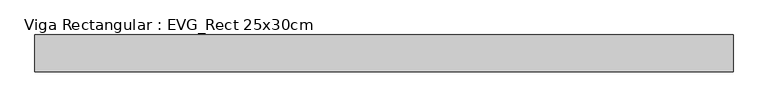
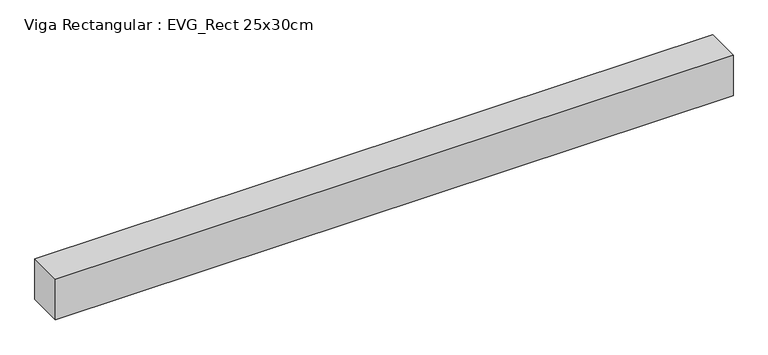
"""IFC4 building model written with IfcOpenShell, lengths in millimetres: beam geometry, Viga Rectangular : EVG_Rect 25x30cm."""

import ifcopenshell
import ifcopenshell.guid

model = None  # the IFC model being written
_history = None  # IfcOwnerHistory: only IFC2X3 demands one
_inside = {}  # id of a spatial element -> (the spatial element, [elements in it])
_under = {}  # id of a project, library or spatial element -> (it, [spatial elements below it])
_declared = {}  # id of a project -> (the project, [libraries it declares])
_typed = {}  # id of a type object -> (the type object, [elements of that type])
_made_of = {}  # id of a material, layer set ... -> (it, [elements and type objects made of it])


def new_model(schema):
    """Start an empty IFC model of exactly this schema.

    Asked for "IFC4X3", IfcOpenShell would pick the latest addendum, in which some entities
    have other attributes; the version numbers below select the first issue.
    IFC2X3 requires an IfcOwnerHistory on every rooted entity: one is made here for all.
    """
    global model, _history
    if schema == "IFC4X3":
        model = ifcopenshell.file(schema_version=(4, 3, 0, 0))
    else:
        model = ifcopenshell.file(schema=schema)
    _inside.clear()
    _under.clear()
    _declared.clear()
    _typed.clear()
    _made_of.clear()
    _history = None
    if model.schema == "IFC2X3":
        org = make("IfcOrganization", Name="unknown")
        user = make(
            "IfcPersonAndOrganization",
            ThePerson=make("IfcPerson", FamilyName="unknown"),
            TheOrganization=org,
        )
        app = make(
            "IfcApplication",
            ApplicationDeveloper=org,
            Version="unknown",
            ApplicationFullName="unknown",
            ApplicationIdentifier="unknown",
        )
        _history = make(
            "IfcOwnerHistory",
            OwningUser=user,
            OwningApplication=app,
            ChangeAction="ADDED",
            CreationDate=0,
        )
    return model


def make(cls, **values):
    """One entity of the class cls with the attributes given. An attribute that is None is left unset."""
    return model.create_entity(
        cls, **{name: value for name, value in values.items() if value is not None}
    )


def rooted(cls, **values):
    """An entity with a GlobalId (a new one), such as an element, a storey or a relation."""
    return make(cls, GlobalId=ifcopenshell.guid.new(), OwnerHistory=_history, **values)


def si_unit(unit_type, name, prefix=None):
    """IfcSIUnit, for example si_unit("LENGTHUNIT", "METRE", prefix="MILLI")."""
    return make("IfcSIUnit", UnitType=unit_type, Prefix=prefix, Name=name)


def assignment(units):
    """IfcUnitAssignment: the units of a project."""
    return None if units is None else make("IfcUnitAssignment", Units=units)


def point(xyz):
    """IfcCartesianPoint."""
    return None if xyz is None else make("IfcCartesianPoint", Coordinates=xyz)


def direction(xyz):
    """IfcDirection."""
    return None if xyz is None else make("IfcDirection", DirectionRatios=xyz)


def frame(location, z_axis=None, x_axis=None):
    """IfcAxis2Placement3D, a coordinate frame: its origin and axes. An axis left out is left unset."""
    return make(
        "IfcAxis2Placement3D",
        Location=point(location),
        Axis=direction(z_axis),
        RefDirection=direction(x_axis),
    )


def origin():
    """The frame at (0, 0, 0) with its axes left unset."""
    return frame((0.0, 0.0, 0.0))


def place(relative_to, where):
    """IfcLocalPlacement: puts the frame where relative to a parent placement (None: the world)."""
    return make(
        "IfcLocalPlacement", PlacementRelTo=relative_to, RelativePlacement=where
    )


def context(
    kind, dimensions, precision=None, world=None, true_north=None, identifier=None
):
    """IfcGeometricRepresentationContext, for example the 3D "Model" context."""
    return make(
        "IfcGeometricRepresentationContext",
        ContextIdentifier=identifier,
        ContextType=kind,
        CoordinateSpaceDimension=dimensions,
        Precision=precision,
        WorldCoordinateSystem=world,
        TrueNorth=true_north,
    )


def project(units=None, contexts=None):
    """IfcProject with its units and contexts."""
    return rooted(
        "IfcProject",
        Name="project",
        RepresentationContexts=contexts,
        UnitsInContext=assignment(units),
    )


def spatial(cls, under=None, at=None, **own):
    """A site, building, storey or space (cls), placed at a placement, below another one or the project."""
    s = rooted(cls, ObjectPlacement=at, **own)
    if under is not None:
        _under.setdefault(under.id(), (under, []))[1].append(s)
    return s


def polyline(points):
    """IfcPolyline through the points."""
    return make("IfcPolyline", Points=[point(p) for p in points])


def outline(outer, holes=None, kind="AREA"):
    """IfcArbitraryClosedProfileDef: a profile drawn as a closed curve; with holes, ...WithVoids."""
    if holes is None:
        return make("IfcArbitraryClosedProfileDef", ProfileType=kind, OuterCurve=outer)
    return make(
        "IfcArbitraryProfileDefWithVoids",
        ProfileType=kind,
        OuterCurve=outer,
        InnerCurves=holes,
    )


def extrude(swept, where, along, depth):
    """IfcExtrudedAreaSolid: the profile swept, set in the frame where, extruded along a direction by depth."""
    return make(
        "IfcExtrudedAreaSolid",
        SweptArea=swept,
        Position=where,
        ExtrudedDirection=direction(along),
        Depth=depth,
    )


def shape(context_of_items, identifier, shape_type, items):
    """IfcShapeRepresentation: the items that make up one representation, for example the "Body"."""
    return make(
        "IfcShapeRepresentation",
        ContextOfItems=context_of_items,
        RepresentationIdentifier=identifier,
        RepresentationType=shape_type,
        Items=items,
    )


def source(mapping_origin, context_of_items, identifier, shape_type, items):
    """IfcRepresentationMap: a shape defined once, which mapped items show again and again."""
    return make(
        "IfcRepresentationMap",
        MappingOrigin=mapping_origin,
        MappedRepresentation=shape(context_of_items, identifier, shape_type, items),
    )


def transform(
    local_origin,
    x_axis=None,
    y_axis=None,
    z_axis=None,
    scale=None,
    scale2=None,
    scale3=None,
    uniform=True,
):
    """IfcCartesianTransformationOperator3D, or its non-uniform kind. x_axis, y_axis, z_axis: its Axis1, 2, 3."""
    if uniform:
        return make(
            "IfcCartesianTransformationOperator3D",
            Axis1=direction(x_axis),
            Axis2=direction(y_axis),
            LocalOrigin=point(local_origin),
            Scale=scale,
            Axis3=direction(z_axis),
        )
    return make(
        "IfcCartesianTransformationOperator3DnonUniform",
        Axis1=direction(x_axis),
        Axis2=direction(y_axis),
        LocalOrigin=point(local_origin),
        Scale=scale,
        Axis3=direction(z_axis),
        Scale2=scale2,
        Scale3=scale3,
    )


def mapped(mapping_source, mapping_target):
    """IfcMappedItem: shows the shape of a source again, moved by a transform."""
    return make(
        "IfcMappedItem", MappingSource=mapping_source, MappingTarget=mapping_target
    )


def made_of(thing, what):
    """Note that an element or type object is made of a material, layer set ...; save() writes the relation."""
    if what is not None:
        _made_of.setdefault(what.id(), (what, []))[1].append(thing)
    return thing


def element(
    cls,
    number,
    at=None,
    inside=None,
    cuts=None,
    type_object=None,
    material=None,
    context=None,
    identifier="Body",
    shape_type=None,
    held_by="IfcProductDefinitionShape",
    body=None,
    shapes=None,
    **own,
):
    """One element of the class cls, such as IfcWall. Its Tag is "e" and its number.

    at: its placement. inside: the storey or other place that contains it. cuts: it is an
    opening in that element (IfcRelVoidsElement). A single representation is given by context,
    identifier, shape_type and body (its items); several are given by shapes. held_by: the class
    of the entity that holds the representations. save() writes the other relations.
    """
    e = rooted(cls, Tag="e%d" % number, ObjectPlacement=at, **own)
    if body is not None:
        shapes = [shape(context, identifier, shape_type, body)]
    if shapes is not None:
        e.Representation = make(held_by, Representations=shapes)
    if inside is not None:
        _inside.setdefault(inside.id(), (inside, []))[1].append(e)
    if cuts is not None:
        rooted(
            "IfcRelVoidsElement", RelatingBuildingElement=cuts, RelatedOpeningElement=e
        )
    if type_object is not None:
        _typed.setdefault(type_object.id(), (type_object, []))[1].append(e)
    return made_of(e, material)


def aggregate(whole, parts):
    """IfcRelAggregates: a whole, such as a stair, and the parts it consists of."""
    return rooted("IfcRelAggregates", RelatingObject=whole, RelatedObjects=parts)


def save(model, path):
    """Write the relations noted so far, then the file.

    IfcRelAggregates (storeys below a building ...), IfcRelContainedInSpatialStructure (elements
    in a storey), IfcRelDefinesByType, IfcRelAssociatesMaterial and IfcRelDeclares: one each for
    every whole, place, type object, material and project.
    """
    for whole, parts in _under.values():
        aggregate(whole, parts)
    for where, things in _inside.values():
        rooted(
            "IfcRelContainedInSpatialStructure",
            RelatedElements=things,
            RelatingStructure=where,
        )
    for kind, things in _typed.values():
        rooted("IfcRelDefinesByType", RelatedObjects=things, RelatingType=kind)
    for what, things in _made_of.values():
        rooted("IfcRelAssociatesMaterial", RelatedObjects=things, RelatingMaterial=what)
    for by, libraries in _declared.values():
        rooted("IfcRelDeclares", RelatingContext=by, RelatedDefinitions=libraries)
    model.write(path)


def viga_rectangular_evg_rect_25x30cm_42a0b3f1(model_context):
    return source(origin(), model_context, "Body", "SweptSolid", [
        extrude(outline(polyline([(2425.0, 125.0), (2425.0, -125.0), (-2325.0, -125.0), (-2325.0, 125.0), (2425.0, 125.0)])), frame((0.0, 0.0, -300.0), z_axis=(0.0, 0.0, 1.0), x_axis=(1.0, 0.0, 0.0)), (0.0, 0.0, 1.0), 300.0),
    ])


if __name__ == "__main__":
    model = new_model("IFC4")
    model_context = context("Model", 3, world=origin())
    ifc_project = project(units=[si_unit("LENGTHUNIT", "METRE", prefix="MILLI")], contexts=[model_context])
    site = spatial("IfcSite", under=ifc_project)
    building = spatial("IfcBuilding", under=site)
    placement = place(None, origin())
    viga_rectangular_evg_rect_25x30cm_shape = viga_rectangular_evg_rect_25x30cm_42a0b3f1(model_context)
    element("IfcBeam", 1, ObjectType="Viga Rectangular : EVG_Rect 25x30cm", at=placement, inside=building, context=model_context, shape_type="MappedRepresentation", body=[
        mapped(viga_rectangular_evg_rect_25x30cm_shape, transform((0.0, 0.0, 0.0), x_axis=(1.0, 0.0, 0.0), y_axis=(0.0, 1.0, 0.0), z_axis=(0.0, 0.0, 1.0))),
    ])
    save(model, "model.ifc")
